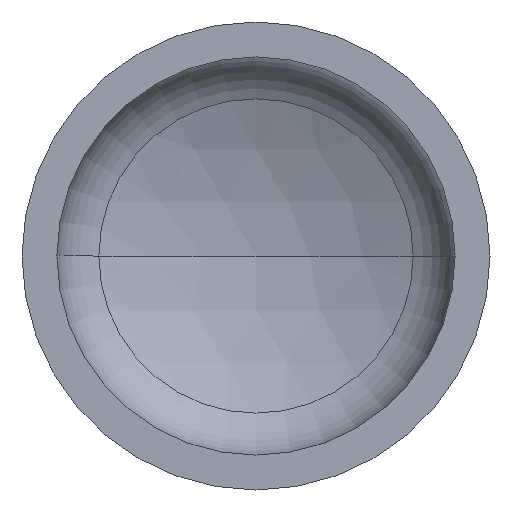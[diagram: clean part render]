
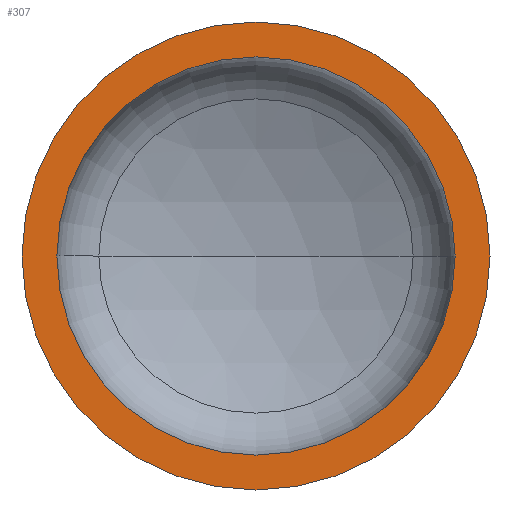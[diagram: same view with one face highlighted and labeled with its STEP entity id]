
A CAD part, front view. The second image highlights one B-rep face of the part: STEP entity #307.
In plain terms, the highlighted planar face has unit normal (0, -1, 0).
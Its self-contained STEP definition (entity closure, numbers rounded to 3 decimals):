
#5 = AXIS2_PLACEMENT_3D ( 'NONE', #206, #99, #379 ) ;
#6 = FACE_OUTER_BOUND ( 'NONE', #8, .T. ) ;
#7 = AXIS2_PLACEMENT_3D ( 'NONE', #127, #118, #112 ) ;
#8 = EDGE_LOOP ( 'NONE', ( #97, #179 ) ) ;
#34 = AXIS2_PLACEMENT_3D ( 'NONE', #327, #324, #332 ) ;
#36 = AXIS2_PLACEMENT_3D ( 'NONE', #298, #146, #168 ) ;
#41 = AXIS2_PLACEMENT_3D ( 'NONE', #359, #246, #227 ) ;
#42 = EDGE_CURVE ( 'NONE', #241, #66, #208, .T. ) ;
#48 = EDGE_CURVE ( 'NONE', #66, #241, #265, .T. ) ;
#50 = EDGE_CURVE ( 'NONE', #120, #193, #95, .T. ) ;
#55 = ORIENTED_EDGE ( 'NONE', *, *, #339, .F. ) ;
#66 = VERTEX_POINT ( 'NONE', #162 ) ;
#95 = CIRCLE ( 'NONE', #34, 468. ) ;
#97 = ORIENTED_EDGE ( 'NONE', *, *, #42, .T. ) ;
#99 = DIRECTION ( 'NONE',  ( 0., -1., 0. ) ) ;
#112 = DIRECTION ( 'NONE',  ( -1., 0., 0. ) ) ;
#118 = DIRECTION ( 'NONE',  ( 0., 1., 0. ) ) ;
#120 = VERTEX_POINT ( 'NONE', #311 ) ;
#125 = CIRCLE ( 'NONE', #5, 468. ) ;
#127 = CARTESIAN_POINT ( 'NONE',  ( -550., 0., 0. ) ) ;
#146 = DIRECTION ( 'NONE',  ( 0., -1., 0. ) ) ;
#162 = CARTESIAN_POINT ( 'NONE',  ( -550., 0., 0. ) ) ;
#168 = DIRECTION ( 'NONE',  ( 1., 0., 0. ) ) ;
#179 = ORIENTED_EDGE ( 'NONE', *, *, #48, .T. ) ;
#193 = VERTEX_POINT ( 'NONE', #232 ) ;
#206 = CARTESIAN_POINT ( 'NONE',  ( 0., 0., 0. ) ) ;
#208 = CIRCLE ( 'NONE', #41, 550. ) ;
#212 = CARTESIAN_POINT ( 'NONE',  ( 550., 0., 0. ) ) ;
#218 = ORIENTED_EDGE ( 'NONE', *, *, #50, .F. ) ;
#227 = DIRECTION ( 'NONE',  ( 1., 0., 0. ) ) ;
#232 = CARTESIAN_POINT ( 'NONE',  ( -468., 0., 0. ) ) ;
#239 = FACE_BOUND ( 'NONE', #361, .T. ) ;
#241 = VERTEX_POINT ( 'NONE', #212 ) ;
#246 = DIRECTION ( 'NONE',  ( 0., -1., 0. ) ) ;
#265 = CIRCLE ( 'NONE', #36, 550. ) ;
#298 = CARTESIAN_POINT ( 'NONE',  ( 0., 0., 0. ) ) ;
#307 = ADVANCED_FACE ( 'NONE', ( #239, #6 ), #385, .F. ) ;
#311 = CARTESIAN_POINT ( 'NONE',  ( 468., 0., 0. ) ) ;
#324 = DIRECTION ( 'NONE',  ( 0., -1., 0. ) ) ;
#327 = CARTESIAN_POINT ( 'NONE',  ( 0., 0., 0. ) ) ;
#332 = DIRECTION ( 'NONE',  ( 1., 0., 0. ) ) ;
#339 = EDGE_CURVE ( 'NONE', #193, #120, #125, .T. ) ;
#359 = CARTESIAN_POINT ( 'NONE',  ( 0., 0., 0. ) ) ;
#361 = EDGE_LOOP ( 'NONE', ( #218, #55 ) ) ;
#379 = DIRECTION ( 'NONE',  ( 1., 0., 0. ) ) ;
#385 = PLANE ( 'NONE',  #7 ) ;
